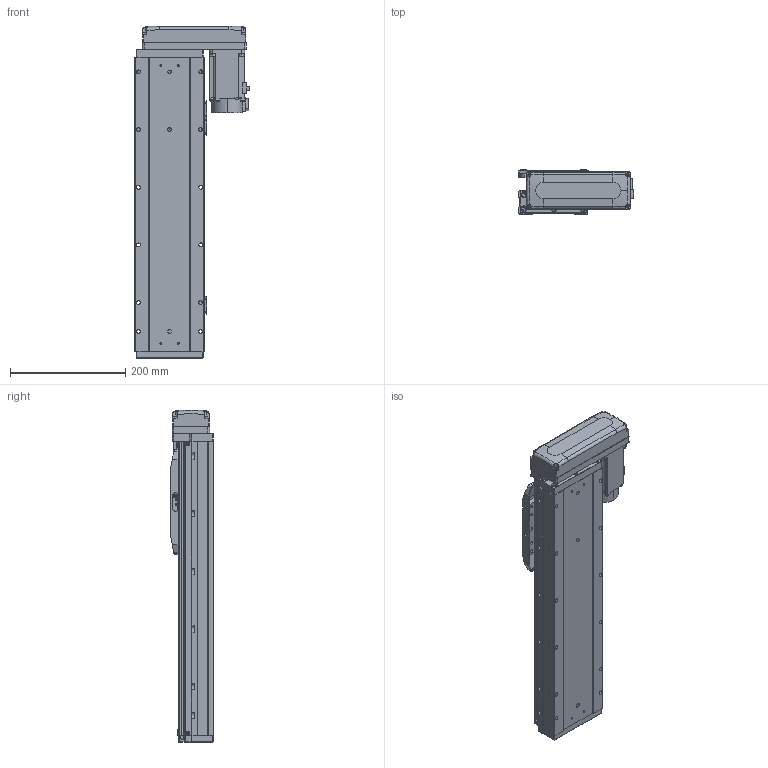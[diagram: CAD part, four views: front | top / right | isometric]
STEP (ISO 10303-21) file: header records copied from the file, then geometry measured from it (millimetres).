
FILE_DESCRIPTION (( 'STEP AP203' ), '1' );
FILE_NAME ('GTH12-300-BL-M40-C4.step', '2023-07-04T10:40:10', ( '微软用户' ), ( '微软中国' ), 'SwSTEP 2.0', 'SolidWorks 2020', '' );
FILE_SCHEMA (( 'CONFIG_CONTROL_DESIGN' ));
Length unit declared in the file: millimetre
Products named in the file (18): GBT96.1-2002 3×0.8; GBT 70.1-M5×16; BTH-M3X5X6; GTH120-001_300; GBT 70.3-M3℅8; hg-kn43j_-s100_; GTH120-003; GTH80-022; CTHA86-033_M40B; GTH120-006; GTH80-028; GTH120-027-1_GTH120-027-2; GTH120-004; GTH50-023; GTH12-300-BL-M40-C4; GTH120-013; GTH50-024; GBT 70.1-M3℅6
Assembly tree (59 placements, depth 2):
  GTH12-300-BL-M40-C4
    GTH120-001_300
    GTH120-003
    GTH120-006
    GTH120-004
    GTH120-013
    GBT 70.1-M3℅6  x14
    GBT 70.1-M5×16  x10
    GBT 70.3-M3℅8  x4
    GTH80-022
    GTH80-028  x2
    GTH50-023  x3
    GTH50-024  x3
    GBT96.1-2002 3×0.8  x6
    BTH-M3X5X6  x8
    hg-kn43j_-s100_
    CTHA86-033_M40B
    GTH120-027-1_GTH120-027-2
Bounding box: 199.8 x 76 x 575.5 mm (x, y, z)
Volume: 4604554.6 mm3; surface area: 489669.4 mm2
Topology: 61 solids, 61 shells, 2382 faces, 5533 edges, 3393 vertices
Faces by surface type: plane 1238, cylinder 676, cone 280, torus 174, sphere 8, bspline 6
Entity records: 43663 total; most frequent: CARTESIAN_POINT 7394, DIRECTION 7197, ORIENTED_EDGE 6676, EDGE_CURVE 3338, AXIS2_PLACEMENT_3D 2517, LINE 2163, VECTOR 2163, VERTEX_POINT 2114
